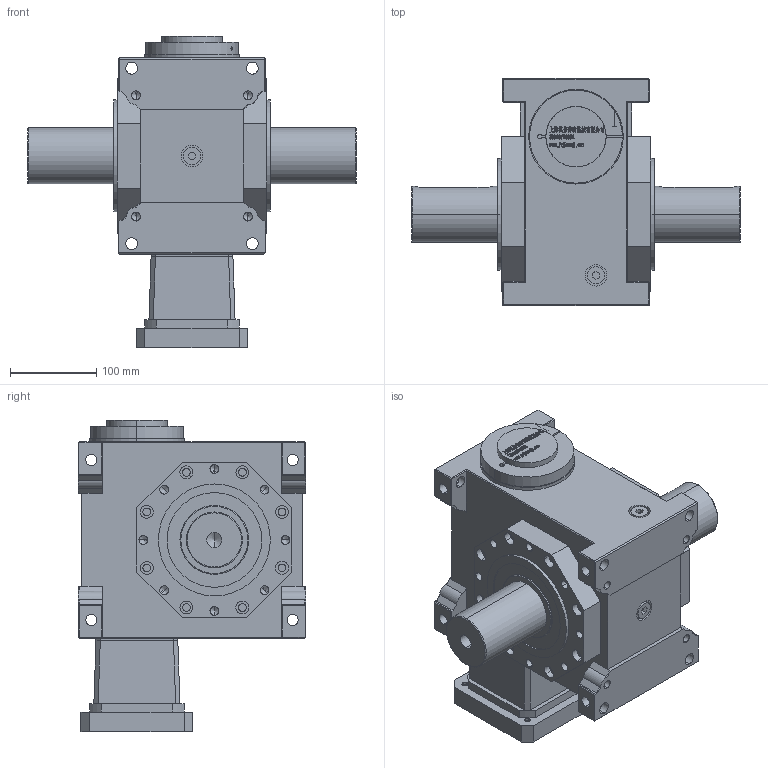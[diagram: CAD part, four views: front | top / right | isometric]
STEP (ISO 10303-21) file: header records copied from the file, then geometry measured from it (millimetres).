
FILE_DESCRIPTION (( 'STEP AP203' ), '1' );
FILE_NAME ('FXLB090-(5~90)-AB-24-110-145-M8.step', '2022-11-05T14:26:47', ( '' ), ( '' ), 'SwSTEP 2.0', 'SolidWorks 2020', '' );
FILE_SCHEMA (( 'CONFIG_CONTROL_DESIGN' ));
Length unit declared in the file: millimetre
Products named in the file (8): FXLB090-(5~90)-AB-24-110-145-M8; ______BD68-73.3-28-24____.step; JDLB090-CR____.step; 錨璃77^FXLB090-(5~90)-AB-24-110-145-M8; JDLB090-ST110________1.step; JDLB090-AB________65.step; ST130-110-145-M8____________.step; FXLB090-(5~90)-AB-24-110-145-M8.step
Assembly tree (7 placements, depth 3):
  FXLB090-(5~90)-AB-24-110-145-M8
    FXLB090-(5~90)-AB-24-110-145-M8.step
      JDLB090-CR____.step
      JDLB090-AB________65.step
      JDLB090-ST110________1.step
      ST130-110-145-M8____________.step
      ______BD68-73.3-28-24____.step
    錨璃77^FXLB090-(5~90)-AB-24-110-145-M8
Bounding box: 382 x 264 x 362.2 mm (x, y, z)
Volume: 10535001 mm3; surface area: 713814.1 mm2
Topology: 81 solids, 81 shells, 2593 faces, 6834 edges, 4453 vertices
Faces by surface type: plane 1510, bspline 572, cylinder 391, cone 100, torus 20
Entity records: 107007 total; most frequent: CARTESIAN_POINT 45626, ORIENTED_EDGE 13520, DIRECTION 10494, EDGE_CURVE 6760, VECTOR 4652, LINE 4652, VERTEX_POINT 4453, AXIS2_PLACEMENT_3D 2921
